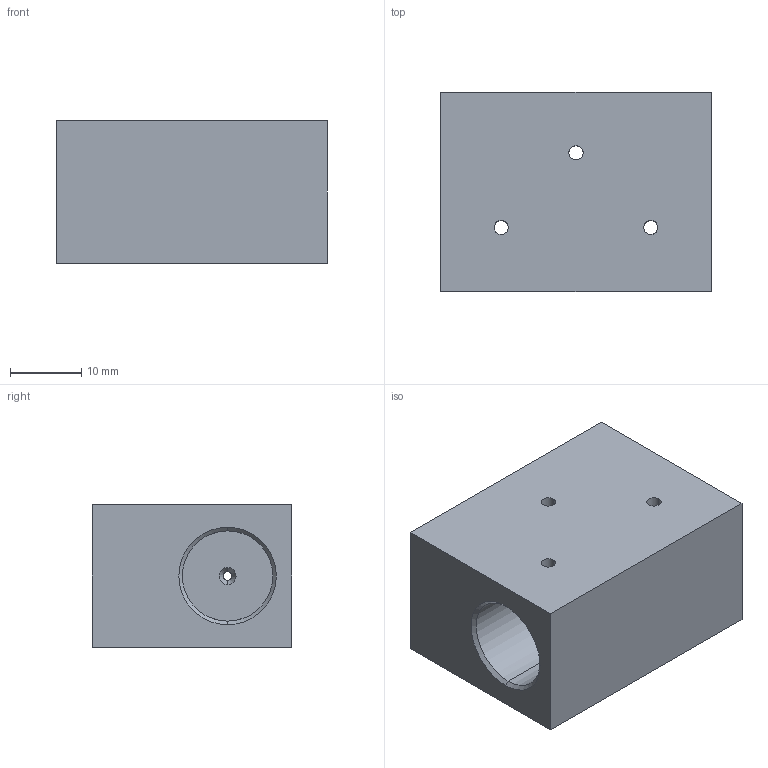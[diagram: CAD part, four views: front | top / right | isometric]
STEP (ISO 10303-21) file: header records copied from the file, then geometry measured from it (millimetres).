
FILE_DESCRIPTION (( 'STEP AP203' ), '1' );
FILE_NAME ('FT30TS02.STEP', '2026-06-26T01:32:54', ( 'USER' ), ( '' ), 'SwSTEP 2.0', 'SolidWorks 2023', '' );
FILE_SCHEMA (( 'CONFIG_CONTROL_DESIGN' ));
Length unit declared in the file: millimetre
Products named in the file (1): FT30TS02
Bounding box: 38 x 28 x 20 mm (x, y, z)
Volume: 17247.5 mm3; surface area: 6158.7 mm2
Topology: 1 solids, 1 shells, 44 faces, 114 edges, 68 vertices
Faces by surface type: cylinder 23, cone 12, plane 9
Entity records: 1613 total; most frequent: CARTESIAN_POINT 441, DIRECTION 228, ORIENTED_EDGE 228, EDGE_CURVE 114, AXIS2_PLACEMENT_3D 87, VERTEX_POINT 68, EDGE_LOOP 56, LINE 54
